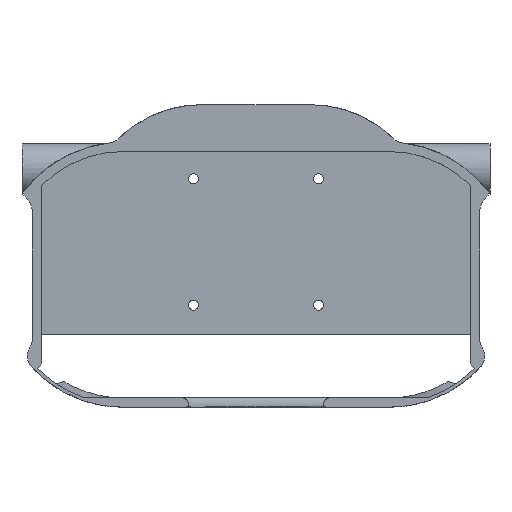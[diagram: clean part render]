
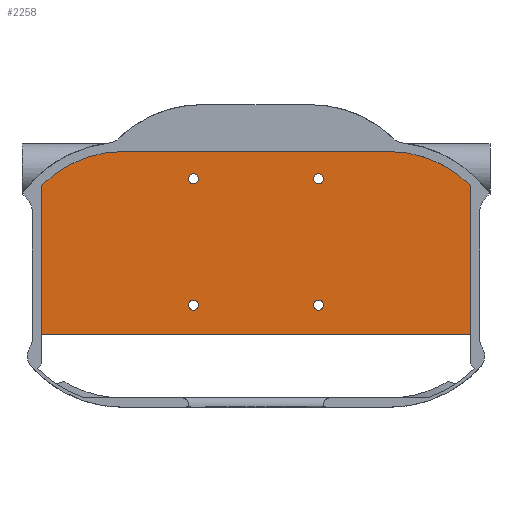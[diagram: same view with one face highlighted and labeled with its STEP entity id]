
A CAD part, front view. The second image highlights one B-rep face of the part: STEP entity #2258.
In plain terms, the highlighted planar face has unit normal (0, -1, 0).
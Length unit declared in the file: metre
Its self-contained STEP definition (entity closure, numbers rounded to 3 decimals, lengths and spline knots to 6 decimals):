
#101=CIRCLE('',#2516,0.037);
#102=CIRCLE('',#2517,0.037);
#103=CIRCLE('',#2518,0.0016);
#104=CIRCLE('',#2519,0.0016);
#105=CIRCLE('',#2520,0.0016);
#106=CIRCLE('',#2521,0.0016);
#416=ORIENTED_EDGE('',*,*,#1068,.F.);
#417=ORIENTED_EDGE('',*,*,#1069,.F.);
#418=ORIENTED_EDGE('',*,*,#947,.F.);
#419=ORIENTED_EDGE('',*,*,#1070,.F.);
#420=ORIENTED_EDGE('',*,*,#1071,.T.);
#421=ORIENTED_EDGE('',*,*,#1072,.T.);
#422=ORIENTED_EDGE('',*,*,#1073,.F.);
#423=ORIENTED_EDGE('',*,*,#1074,.F.);
#424=ORIENTED_EDGE('',*,*,#1075,.F.);
#425=ORIENTED_EDGE('',*,*,#1076,.F.);
#947=EDGE_CURVE('',#1281,#1282,#1515,.T.);
#1068=EDGE_CURVE('',#1387,#1388,#1563,.T.);
#1069=EDGE_CURVE('',#1282,#1387,#101,.F.);
#1070=EDGE_CURVE('',#1389,#1281,#102,.F.);
#1071=EDGE_CURVE('',#1389,#1390,#1564,.T.);
#1072=EDGE_CURVE('',#1390,#1388,#1565,.T.);
#1073=EDGE_CURVE('',#1391,#1391,#103,.T.);
#1074=EDGE_CURVE('',#1392,#1392,#104,.T.);
#1075=EDGE_CURVE('',#1393,#1393,#105,.T.);
#1076=EDGE_CURVE('',#1394,#1394,#106,.T.);
#1281=VERTEX_POINT('',#3378);
#1282=VERTEX_POINT('',#3380);
#1387=VERTEX_POINT('',#3900);
#1388=VERTEX_POINT('',#3901);
#1389=VERTEX_POINT('',#3904);
#1390=VERTEX_POINT('',#3906);
#1391=VERTEX_POINT('',#3909);
#1392=VERTEX_POINT('',#3911);
#1393=VERTEX_POINT('',#3913);
#1394=VERTEX_POINT('',#3915);
#1515=LINE('',#3379,#1708);
#1563=LINE('',#3899,#1756);
#1564=LINE('',#3905,#1757);
#1565=LINE('',#3907,#1758);
#1708=VECTOR('',#2722,1.);
#1756=VECTOR('',#2884,1.);
#1757=VECTOR('',#2889,1.);
#1758=VECTOR('',#2890,1.);
#1890=EDGE_LOOP('',(#416,#417,#418,#419,#420,#421));
#1891=EDGE_LOOP('',(#422));
#1892=EDGE_LOOP('',(#423));
#1893=EDGE_LOOP('',(#424));
#1894=EDGE_LOOP('',(#425));
#2044=FACE_BOUND('',#1890,.T.);
#2045=FACE_BOUND('',#1891,.T.);
#2046=FACE_BOUND('',#1892,.T.);
#2047=FACE_BOUND('',#1893,.T.);
#2048=FACE_BOUND('',#1894,.T.);
#2182=PLANE('',#2515);
#2258=ADVANCED_FACE('Face appearance 1',(#2044,#2045,#2046,#2047,#2048),
#2182,.T.);
#2515=AXIS2_PLACEMENT_3D('',#3898,#2882,#2883);
#2516=AXIS2_PLACEMENT_3D('',#3902,#2885,#2886);
#2517=AXIS2_PLACEMENT_3D('',#3903,#2887,#2888);
#2518=AXIS2_PLACEMENT_3D('',#3908,#2891,#2892);
#2519=AXIS2_PLACEMENT_3D('',#3910,#2893,#2894);
#2520=AXIS2_PLACEMENT_3D('',#3912,#2895,#2896);
#2521=AXIS2_PLACEMENT_3D('',#3914,#2897,#2898);
#2722=DIRECTION('',(1.,0.,0.));
#2882=DIRECTION('',(0.,-1.,0.));
#2883=DIRECTION('',(1.,0.,0.));
#2884=DIRECTION('',(0.,0.,-1.));
#2885=DIRECTION('',(0.,-1.,0.));
#2886=DIRECTION('',(1.,0.,0.));
#2887=DIRECTION('',(0.,-1.,0.));
#2888=DIRECTION('',(1.,0.,0.));
#2889=DIRECTION('',(0.,0.,-1.));
#2890=DIRECTION('',(1.,0.,0.));
#2891=DIRECTION('',(0.,-1.,0.));
#2892=DIRECTION('',(1.,0.,0.));
#2893=DIRECTION('',(0.,-1.,0.));
#2894=DIRECTION('',(1.,0.,0.));
#2895=DIRECTION('',(0.,-1.,0.));
#2896=DIRECTION('',(1.,0.,0.));
#2897=DIRECTION('',(0.,-1.,0.));
#2898=DIRECTION('',(1.,0.,0.));
#3378=CARTESIAN_POINT('',(-0.0425,-0.003,0.042068));
#3379=CARTESIAN_POINT('',(0.,-0.003,0.042068));
#3380=CARTESIAN_POINT('',(0.0425,-0.003,0.042068));
#3898=CARTESIAN_POINT('',(0.,-0.003,0.002568));
#3899=CARTESIAN_POINT('',(0.06874,-0.003,0.002568));
#3900=CARTESIAN_POINT('',(0.06874,-0.003,0.031154));
#3901=CARTESIAN_POINT('',(0.06874,-0.003,-0.016514));
#3902=CARTESIAN_POINT('',(0.0425,-0.003,0.005068));
#3903=CARTESIAN_POINT('',(-0.0425,-0.003,0.005068));
#3904=CARTESIAN_POINT('',(-0.06874,-0.003,0.031154));
#3905=CARTESIAN_POINT('',(-0.06874,-0.003,0.002568));
#3906=CARTESIAN_POINT('',(-0.06874,-0.003,-0.016514));
#3907=CARTESIAN_POINT('',(0.,-0.003,-0.016514));
#3908=CARTESIAN_POINT('',(0.020086,-0.003,-0.007182));
#3909=CARTESIAN_POINT('',(0.021686,-0.003,-0.007182));
#3910=CARTESIAN_POINT('',(0.020086,-0.003,0.033318));
#3911=CARTESIAN_POINT('',(0.021686,-0.003,0.033318));
#3912=CARTESIAN_POINT('',(-0.020086,-0.003,0.033318));
#3913=CARTESIAN_POINT('',(-0.018486,-0.003,0.033318));
#3914=CARTESIAN_POINT('',(-0.020086,-0.003,-0.007182));
#3915=CARTESIAN_POINT('',(-0.018486,-0.003,-0.007182));
